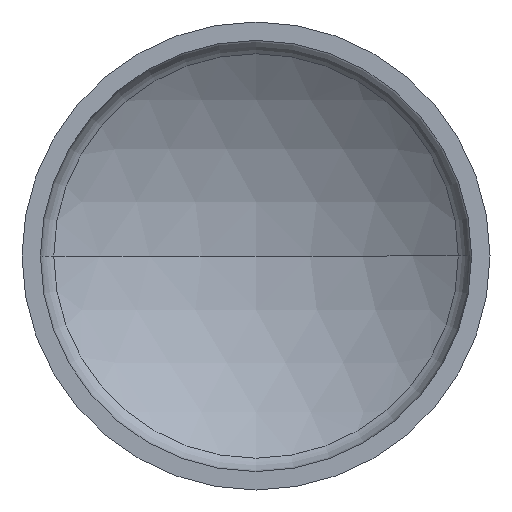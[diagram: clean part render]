
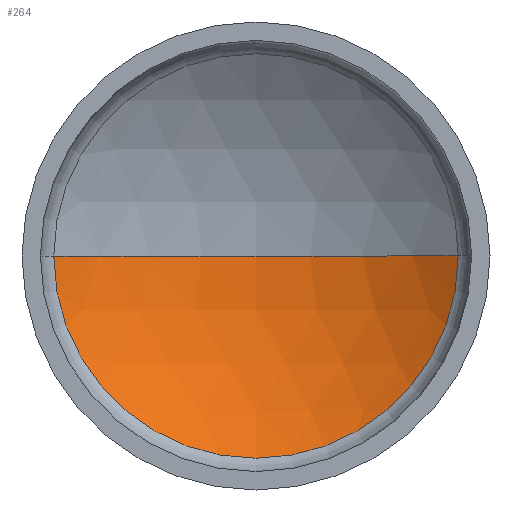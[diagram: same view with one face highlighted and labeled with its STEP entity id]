
A CAD part, front view. The second image highlights one B-rep face of the part: STEP entity #264.
In plain terms, the highlighted spherical face has radius 54.88 mm.
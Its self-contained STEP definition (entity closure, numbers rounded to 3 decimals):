
#21 = EDGE_LOOP ( 'NONE', ( #376, #309, #159 ) ) ;
#41 = DIRECTION ( 'NONE',  ( 0., 0., 1. ) ) ;
#103 = CIRCLE ( 'NONE', #212, 32.879 ) ;
#118 = DIRECTION ( 'NONE',  ( 0., 0., -1. ) ) ;
#120 = VERTEX_POINT ( 'NONE', #135 ) ;
#121 = CARTESIAN_POINT ( 'NONE',  ( -32.879, 4.561, 0. ) ) ;
#130 = CIRCLE ( 'NONE', #357, 54.88 ) ;
#135 = CARTESIAN_POINT ( 'NONE',  ( 0., 15.5, 0. ) ) ;
#152 = CARTESIAN_POINT ( 'NONE',  ( 0., -39.38, 0. ) ) ;
#155 = CARTESIAN_POINT ( 'NONE',  ( 32.879, 4.561, 0. ) ) ;
#159 = ORIENTED_EDGE ( 'NONE', *, *, #314, .F. ) ;
#186 = DIRECTION ( 'NONE',  ( -1., 0., 0. ) ) ;
#200 = DIRECTION ( 'NONE',  ( 0., 1., 0. ) ) ;
#201 = CIRCLE ( 'NONE', #398, 54.88 ) ;
#209 = VERTEX_POINT ( 'NONE', #155 ) ;
#212 = AXIS2_PLACEMENT_3D ( 'NONE', #349, #200, #240 ) ;
#240 = DIRECTION ( 'NONE',  ( -1., 0., 0. ) ) ;
#264 = ADVANCED_FACE ( 'NONE', ( #334 ), #364, .F. ) ;
#278 = VERTEX_POINT ( 'NONE', #121 ) ;
#288 = DIRECTION ( 'NONE',  ( 1., 0., 0. ) ) ;
#299 = AXIS2_PLACEMENT_3D ( 'NONE', #152, #400, #306 ) ;
#306 = DIRECTION ( 'NONE',  ( -1., 0., 0. ) ) ;
#309 = ORIENTED_EDGE ( 'NONE', *, *, #359, .T. ) ;
#314 = EDGE_CURVE ( 'NONE', #278, #120, #130, .T. ) ;
#334 = FACE_OUTER_BOUND ( 'NONE', #21, .T. ) ;
#340 = CARTESIAN_POINT ( 'NONE',  ( 0., -39.38, 0. ) ) ;
#349 = CARTESIAN_POINT ( 'NONE',  ( 0., 4.561, 0. ) ) ;
#355 = CARTESIAN_POINT ( 'NONE',  ( 0., -39.38, 0. ) ) ;
#357 = AXIS2_PLACEMENT_3D ( 'NONE', #340, #118, #186 ) ;
#359 = EDGE_CURVE ( 'NONE', #209, #120, #201, .T. ) ;
#364 = SPHERICAL_SURFACE ( 'NONE', #299, 54.88 ) ;
#373 = EDGE_CURVE ( 'NONE', #209, #278, #103, .T. ) ;
#376 = ORIENTED_EDGE ( 'NONE', *, *, #373, .F. ) ;
#398 = AXIS2_PLACEMENT_3D ( 'NONE', #355, #41, #288 ) ;
#400 = DIRECTION ( 'NONE',  ( 0., 0., 1. ) ) ;
